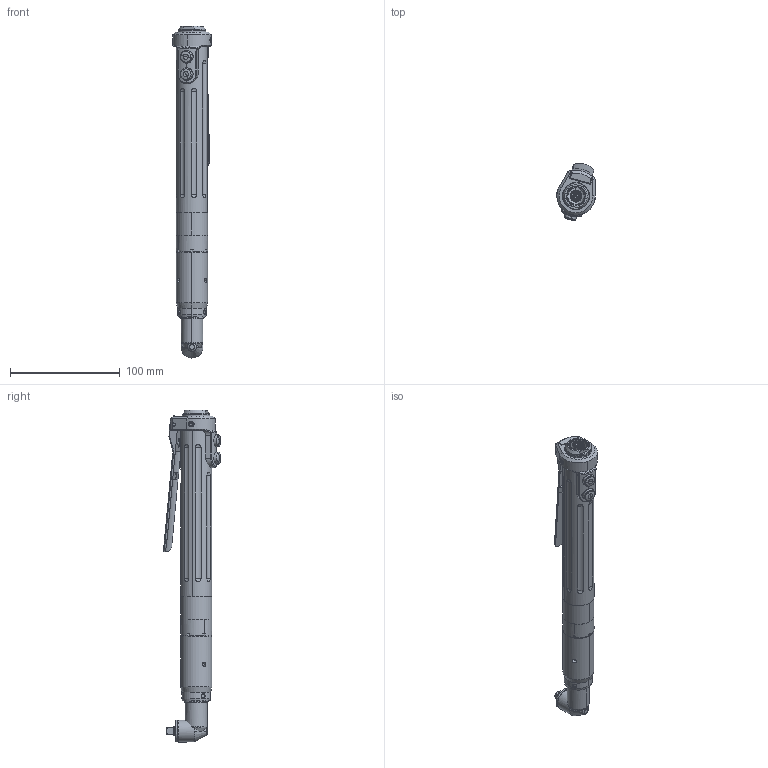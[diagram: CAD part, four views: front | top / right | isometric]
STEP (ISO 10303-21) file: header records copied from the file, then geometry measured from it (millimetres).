
FILE_DESCRIPTION (( 'STEP AP214' ), '1' );
FILE_NAME ('ASG-SD2500-50RP-J.STEP', '2023-01-17T16:46:51', ( '' ), ( '' ), 'SwSTEP 2.0', 'SolidWorks 2022', '' );
FILE_SCHEMA (( 'AUTOMOTIVE_DESIGN' ));
Length unit declared in the file: millimetre
Products named in the file (1): ASG-SD2500-50RP-J
Bounding box: 34.92 x 52.01 x 302.53 mm (x, y, z)
Surface area: 43733.3 mm2 (no closed solid volume)
Topology: 0 solids, 25 shells, 431 faces, 1258 edges, 847 vertices
Faces by surface type: cylinder 177, plane 87, torus 59, cone 52, bspline 48, sphere 8
Entity records: 38100 total; most frequent: CARTESIAN_POINT 22520, ORIENTED_EDGE 2202, DIRECTION 2149, EDGE_CURVE 1258, AXIS2_PLACEMENT_3D 898, VERTEX_POINT 847, CIRCLE 514, EDGE_LOOP 500
